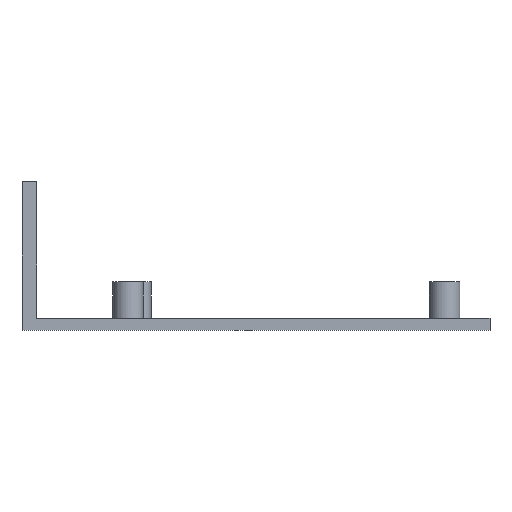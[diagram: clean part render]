
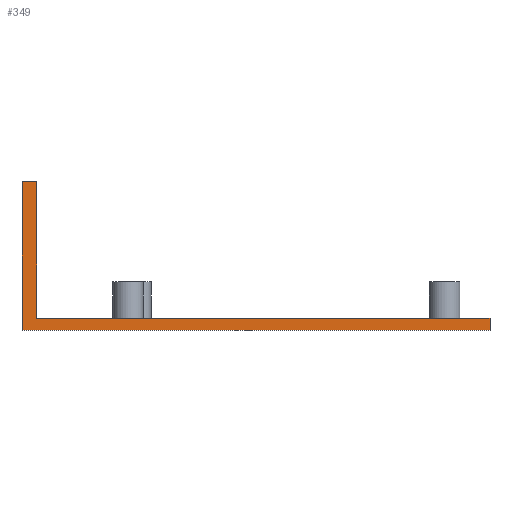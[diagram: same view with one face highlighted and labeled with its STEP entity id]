
A CAD part, front view. The second image highlights one B-rep face of the part: STEP entity #349.
In plain terms, the highlighted planar face has unit normal (0, -1, 0).
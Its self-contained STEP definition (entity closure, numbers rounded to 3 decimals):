
#21 = EDGE_CURVE('',#22,#24,#26,.T.);
#22 = VERTEX_POINT('',#23);
#23 = CARTESIAN_POINT('',(0.,22.,0.));
#24 = VERTEX_POINT('',#25);
#25 = CARTESIAN_POINT('',(0.,22.,24.5));
#26 = SURFACE_CURVE('',#27,(#31,#43),.PCURVE_S1.);
#27 = LINE('',#28,#29);
#28 = CARTESIAN_POINT('',(0.,22.,0.));
#29 = VECTOR('',#30,1.);
#30 = DIRECTION('',(0.,0.,1.));
#31 = PCURVE('',#32,#37);
#32 = PLANE('',#33);
#33 = AXIS2_PLACEMENT_3D('',#34,#35,#36);
#34 = CARTESIAN_POINT('',(0.,22.,0.));
#35 = DIRECTION('',(1.,0.,0.));
#36 = DIRECTION('',(0.,0.,1.));
#37 = DEFINITIONAL_REPRESENTATION('',(#38),#42);
#38 = LINE('',#39,#40);
#39 = CARTESIAN_POINT('',(0.,0.));
#40 = VECTOR('',#41,1.);
#41 = DIRECTION('',(1.,0.));
#42 = ( GEOMETRIC_REPRESENTATION_CONTEXT(2) 
PARAMETRIC_REPRESENTATION_CONTEXT() REPRESENTATION_CONTEXT('2D SPACE',''
  ) );
#43 = PCURVE('',#44,#49);
#44 = PLANE('',#45);
#45 = AXIS2_PLACEMENT_3D('',#46,#47,#48);
#46 = CARTESIAN_POINT('',(0.,22.,0.));
#47 = DIRECTION('',(0.,1.,0.));
#48 = DIRECTION('',(0.,0.,1.));
#49 = DEFINITIONAL_REPRESENTATION('',(#50),#54);
#50 = LINE('',#51,#52);
#51 = CARTESIAN_POINT('',(0.,0.));
#52 = VECTOR('',#53,1.);
#53 = DIRECTION('',(1.,0.));
#54 = ( GEOMETRIC_REPRESENTATION_CONTEXT(2) 
PARAMETRIC_REPRESENTATION_CONTEXT() REPRESENTATION_CONTEXT('2D SPACE',''
  ) );
#72 = PLANE('',#73);
#73 = AXIS2_PLACEMENT_3D('',#74,#75,#76);
#74 = CARTESIAN_POINT('',(0.,22.,0.));
#75 = DIRECTION('',(0.,0.,1.));
#76 = DIRECTION('',(1.,0.,0.));
#126 = PLANE('',#127);
#127 = AXIS2_PLACEMENT_3D('',#128,#129,#130);
#128 = CARTESIAN_POINT('',(0.,22.,24.5));
#129 = DIRECTION('',(0.,0.,1.));
#130 = DIRECTION('',(1.,0.,0.));
#349 = ADVANCED_FACE('',(#350),#44,.F.);
#350 = FACE_BOUND('',#351,.F.);
#351 = EDGE_LOOP('',(#352,#382,#403,#404,#427,#455));
#352 = ORIENTED_EDGE('',*,*,#353,.F.);
#353 = EDGE_CURVE('',#354,#356,#358,.T.);
#354 = VERTEX_POINT('',#355);
#355 = CARTESIAN_POINT('',(77.,22.,0.));
#356 = VERTEX_POINT('',#357);
#357 = CARTESIAN_POINT('',(77.,22.,2.));
#358 = SURFACE_CURVE('',#359,(#363,#370),.PCURVE_S1.);
#359 = LINE('',#360,#361);
#360 = CARTESIAN_POINT('',(77.,22.,0.));
#361 = VECTOR('',#362,1.);
#362 = DIRECTION('',(0.,0.,1.));
#363 = PCURVE('',#44,#364);
#364 = DEFINITIONAL_REPRESENTATION('',(#365),#369);
#365 = LINE('',#366,#367);
#366 = CARTESIAN_POINT('',(0.,77.));
#367 = VECTOR('',#368,1.);
#368 = DIRECTION('',(1.,0.));
#369 = ( GEOMETRIC_REPRESENTATION_CONTEXT(2) 
PARAMETRIC_REPRESENTATION_CONTEXT() REPRESENTATION_CONTEXT('2D SPACE',''
  ) );
#370 = PCURVE('',#371,#376);
#371 = PLANE('',#372);
#372 = AXIS2_PLACEMENT_3D('',#373,#374,#375);
#373 = CARTESIAN_POINT('',(77.,22.,0.));
#374 = DIRECTION('',(1.,0.,0.));
#375 = DIRECTION('',(0.,0.,1.));
#376 = DEFINITIONAL_REPRESENTATION('',(#377),#381);
#377 = LINE('',#378,#379);
#378 = CARTESIAN_POINT('',(0.,0.));
#379 = VECTOR('',#380,1.);
#380 = DIRECTION('',(1.,0.));
#381 = ( GEOMETRIC_REPRESENTATION_CONTEXT(2) 
PARAMETRIC_REPRESENTATION_CONTEXT() REPRESENTATION_CONTEXT('2D SPACE',''
  ) );
#382 = ORIENTED_EDGE('',*,*,#383,.F.);
#383 = EDGE_CURVE('',#22,#354,#384,.T.);
#384 = SURFACE_CURVE('',#385,(#389,#396),.PCURVE_S1.);
#385 = LINE('',#386,#387);
#386 = CARTESIAN_POINT('',(0.,22.,0.));
#387 = VECTOR('',#388,1.);
#388 = DIRECTION('',(1.,0.,0.));
#389 = PCURVE('',#44,#390);
#390 = DEFINITIONAL_REPRESENTATION('',(#391),#395);
#391 = LINE('',#392,#393);
#392 = CARTESIAN_POINT('',(0.,0.));
#393 = VECTOR('',#394,1.);
#394 = DIRECTION('',(0.,1.));
#395 = ( GEOMETRIC_REPRESENTATION_CONTEXT(2) 
PARAMETRIC_REPRESENTATION_CONTEXT() REPRESENTATION_CONTEXT('2D SPACE',''
  ) );
#396 = PCURVE('',#72,#397);
#397 = DEFINITIONAL_REPRESENTATION('',(#398),#402);
#398 = LINE('',#399,#400);
#399 = CARTESIAN_POINT('',(0.,0.));
#400 = VECTOR('',#401,1.);
#401 = DIRECTION('',(1.,0.));
#402 = ( GEOMETRIC_REPRESENTATION_CONTEXT(2) 
PARAMETRIC_REPRESENTATION_CONTEXT() REPRESENTATION_CONTEXT('2D SPACE',''
  ) );
#403 = ORIENTED_EDGE('',*,*,#21,.T.);
#404 = ORIENTED_EDGE('',*,*,#405,.T.);
#405 = EDGE_CURVE('',#24,#406,#408,.T.);
#406 = VERTEX_POINT('',#407);
#407 = CARTESIAN_POINT('',(2.4,22.,24.5));
#408 = SURFACE_CURVE('',#409,(#413,#420),.PCURVE_S1.);
#409 = LINE('',#410,#411);
#410 = CARTESIAN_POINT('',(0.,22.,24.5));
#411 = VECTOR('',#412,1.);
#412 = DIRECTION('',(1.,0.,0.));
#413 = PCURVE('',#44,#414);
#414 = DEFINITIONAL_REPRESENTATION('',(#415),#419);
#415 = LINE('',#416,#417);
#416 = CARTESIAN_POINT('',(24.5,0.));
#417 = VECTOR('',#418,1.);
#418 = DIRECTION('',(0.,1.));
#419 = ( GEOMETRIC_REPRESENTATION_CONTEXT(2) 
PARAMETRIC_REPRESENTATION_CONTEXT() REPRESENTATION_CONTEXT('2D SPACE',''
  ) );
#420 = PCURVE('',#126,#421);
#421 = DEFINITIONAL_REPRESENTATION('',(#422),#426);
#422 = LINE('',#423,#424);
#423 = CARTESIAN_POINT('',(0.,0.));
#424 = VECTOR('',#425,1.);
#425 = DIRECTION('',(1.,0.));
#426 = ( GEOMETRIC_REPRESENTATION_CONTEXT(2) 
PARAMETRIC_REPRESENTATION_CONTEXT() REPRESENTATION_CONTEXT('2D SPACE',''
  ) );
#427 = ORIENTED_EDGE('',*,*,#428,.F.);
#428 = EDGE_CURVE('',#429,#406,#431,.T.);
#429 = VERTEX_POINT('',#430);
#430 = CARTESIAN_POINT('',(2.4,22.,2.));
#431 = SURFACE_CURVE('',#432,(#436,#443),.PCURVE_S1.);
#432 = LINE('',#433,#434);
#433 = CARTESIAN_POINT('',(2.4,22.,1.5));
#434 = VECTOR('',#435,1.);
#435 = DIRECTION('',(0.,0.,1.));
#436 = PCURVE('',#44,#437);
#437 = DEFINITIONAL_REPRESENTATION('',(#438),#442);
#438 = LINE('',#439,#440);
#439 = CARTESIAN_POINT('',(1.5,2.4));
#440 = VECTOR('',#441,1.);
#441 = DIRECTION('',(1.,0.));
#442 = ( GEOMETRIC_REPRESENTATION_CONTEXT(2) 
PARAMETRIC_REPRESENTATION_CONTEXT() REPRESENTATION_CONTEXT('2D SPACE',''
  ) );
#443 = PCURVE('',#444,#449);
#444 = PLANE('',#445);
#445 = AXIS2_PLACEMENT_3D('',#446,#447,#448);
#446 = CARTESIAN_POINT('',(2.4,22.,1.5));
#447 = DIRECTION('',(1.,0.,0.));
#448 = DIRECTION('',(0.,0.,1.));
#449 = DEFINITIONAL_REPRESENTATION('',(#450),#454);
#450 = LINE('',#451,#452);
#451 = CARTESIAN_POINT('',(0.,0.));
#452 = VECTOR('',#453,1.);
#453 = DIRECTION('',(1.,0.));
#454 = ( GEOMETRIC_REPRESENTATION_CONTEXT(2) 
PARAMETRIC_REPRESENTATION_CONTEXT() REPRESENTATION_CONTEXT('2D SPACE',''
  ) );
#455 = ORIENTED_EDGE('',*,*,#456,.T.);
#456 = EDGE_CURVE('',#429,#356,#457,.T.);
#457 = SURFACE_CURVE('',#458,(#462,#469),.PCURVE_S1.);
#458 = LINE('',#459,#460);
#459 = CARTESIAN_POINT('',(0.,22.,2.));
#460 = VECTOR('',#461,1.);
#461 = DIRECTION('',(1.,0.,0.));
#462 = PCURVE('',#44,#463);
#463 = DEFINITIONAL_REPRESENTATION('',(#464),#468);
#464 = LINE('',#465,#466);
#465 = CARTESIAN_POINT('',(2.,0.));
#466 = VECTOR('',#467,1.);
#467 = DIRECTION('',(0.,1.));
#468 = ( GEOMETRIC_REPRESENTATION_CONTEXT(2) 
PARAMETRIC_REPRESENTATION_CONTEXT() REPRESENTATION_CONTEXT('2D SPACE',''
  ) );
#469 = PCURVE('',#470,#475);
#470 = PLANE('',#471);
#471 = AXIS2_PLACEMENT_3D('',#472,#473,#474);
#472 = CARTESIAN_POINT('',(0.,22.,2.));
#473 = DIRECTION('',(0.,0.,1.));
#474 = DIRECTION('',(1.,0.,0.));
#475 = DEFINITIONAL_REPRESENTATION('',(#476),#480);
#476 = LINE('',#477,#478);
#477 = CARTESIAN_POINT('',(0.,0.));
#478 = VECTOR('',#479,1.);
#479 = DIRECTION('',(1.,0.));
#480 = ( GEOMETRIC_REPRESENTATION_CONTEXT(2) 
PARAMETRIC_REPRESENTATION_CONTEXT() REPRESENTATION_CONTEXT('2D SPACE',''
  ) );
